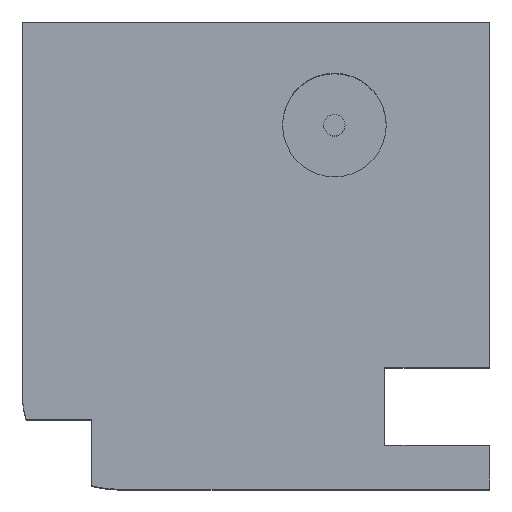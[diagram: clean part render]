
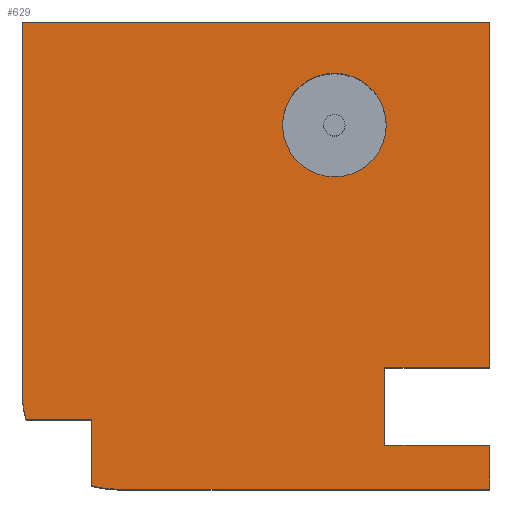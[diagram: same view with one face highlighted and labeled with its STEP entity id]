
A CAD part, top view. The second image highlights one B-rep face of the part: STEP entity #629.
In plain terms, the highlighted planar face has unit normal (0, 0, 1).
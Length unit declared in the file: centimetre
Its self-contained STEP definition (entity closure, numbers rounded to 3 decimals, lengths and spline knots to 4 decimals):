
#74 = AXIS2_PLACEMENT_3D ( 'NONE', #803, #2082, #795 ) ;
#104 = LINE ( 'NONE', #1717, #418 ) ;
#116 = CIRCLE ( 'NONE', #1356, 110.915 ) ;
#120 = VERTEX_POINT ( 'NONE', #250 ) ;
#144 = VECTOR ( 'NONE', #805, 100. ) ;
#169 = LINE ( 'NONE', #1017, #1696 ) ;
#172 = VECTOR ( 'NONE', #569, 100. ) ;
#191 = DIRECTION ( 'NONE',  ( 0., -1., 0. ) ) ;
#226 = FACE_BOUND ( 'NONE', #1618, .T. ) ;
#234 = ORIENTED_EDGE ( 'NONE', *, *, #1684, .T. ) ;
#238 = LINE ( 'NONE', #883, #172 ) ;
#250 = CARTESIAN_POINT ( 'NONE',  ( 775.8467, 261.068, 1000. ) ) ;
#297 = ORIENTED_EDGE ( 'NONE', *, *, #1650, .T. ) ;
#315 = CIRCLE ( 'NONE', #1486, 204.1867 ) ;
#326 = CARTESIAN_POINT ( 'NONE',  ( 775.8467, 93.9171, 1000. ) ) ;
#368 = ORIENTED_EDGE ( 'NONE', *, *, #1991, .T. ) ;
#377 = VERTEX_POINT ( 'NONE', #528 ) ;
#418 = VECTOR ( 'NONE', #740, 100. ) ;
#421 = EDGE_CURVE ( 'NONE', #1087, #1946, #1657, .T. ) ;
#481 = VECTOR ( 'NONE', #191, 100. ) ;
#495 = CARTESIAN_POINT ( 'NONE',  ( 0., 148.4394, 1000. ) ) ;
#499 = EDGE_CURVE ( 'NONE', #120, #1113, #994, .T. ) ;
#524 = VECTOR ( 'NONE', #1801, 100. ) ;
#528 = CARTESIAN_POINT ( 'NONE',  ( 147.9905, 148.4394, 1000. ) ) ;
#536 = CARTESIAN_POINT ( 'NONE',  ( 556.8549, 779.3214, 1000. ) ) ;
#543 = CARTESIAN_POINT ( 'NONE',  ( 1000., 1000., 1000. ) ) ;
#569 = DIRECTION ( 'NONE',  ( -1., 0., 0. ) ) ;
#606 = CARTESIAN_POINT ( 'NONE',  ( 204.1867, 0., 1000. ) ) ;
#629 = ADVANCED_FACE ( 'NONE', ( #226, #871 ), #715, .T. ) ;
#634 = LINE ( 'NONE', #1281, #144 ) ;
#636 = LINE ( 'NONE', #669, #1936 ) ;
#654 = ORIENTED_EDGE ( 'NONE', *, *, #1523, .T. ) ;
#657 = DIRECTION ( 'NONE',  ( 0., 0., 1. ) ) ;
#669 = CARTESIAN_POINT ( 'NONE',  ( 147.9905, 0., 1000. ) ) ;
#715 = PLANE ( 'NONE',  #1729 ) ;
#738 = VERTEX_POINT ( 'NONE', #606 ) ;
#740 = DIRECTION ( 'NONE',  ( 0., 1., 0. ) ) ;
#795 = DIRECTION ( 'NONE',  ( 1., 0., 0. ) ) ;
#803 = CARTESIAN_POINT ( 'NONE',  ( 204.1867, 204.1867, 1000. ) ) ;
#805 = DIRECTION ( 'NONE',  ( 1., 0., 0. ) ) ;
#821 = CARTESIAN_POINT ( 'NONE',  ( 0., 1000., 1000. ) ) ;
#828 = CARTESIAN_POINT ( 'NONE',  ( 0., 1000., 1000. ) ) ;
#837 = DIRECTION ( 'NONE',  ( 0., -1., 0. ) ) ;
#871 = FACE_OUTER_BOUND ( 'NONE', #1206, .T. ) ;
#883 = CARTESIAN_POINT ( 'NONE',  ( 775.8467, 261.068, 1000. ) ) ;
#906 = CARTESIAN_POINT ( 'NONE',  ( 1000., 93.9171, 1000. ) ) ;
#909 = ORIENTED_EDGE ( 'NONE', *, *, #951, .F. ) ;
#919 = VECTOR ( 'NONE', #837, 100. ) ;
#937 = CARTESIAN_POINT ( 'NONE',  ( 667.7699, 779.3214, 1000. ) ) ;
#951 = EDGE_CURVE ( 'NONE', #1796, #120, #238, .T. ) ;
#954 = VERTEX_POINT ( 'NONE', #543 ) ;
#955 = DIRECTION ( 'NONE',  ( 1., 0., 0. ) ) ;
#967 = VERTEX_POINT ( 'NONE', #906 ) ;
#975 = DIRECTION ( 'NONE',  ( 0., -1., 0. ) ) ;
#989 = ORIENTED_EDGE ( 'NONE', *, *, #1492, .F. ) ;
#994 = LINE ( 'NONE', #1635, #481 ) ;
#1017 = CARTESIAN_POINT ( 'NONE',  ( 1000., 1000., 1000. ) ) ;
#1068 = DIRECTION ( 'NONE',  ( 1., 0., 0. ) ) ;
#1087 = VERTEX_POINT ( 'NONE', #821 ) ;
#1091 = VECTOR ( 'NONE', #1367, 100. ) ;
#1092 = EDGE_CURVE ( 'NONE', #1946, #1968, #315, .T. ) ;
#1098 = LINE ( 'NONE', #495, #2012 ) ;
#1105 = ORIENTED_EDGE ( 'NONE', *, *, #1092, .T. ) ;
#1113 = VERTEX_POINT ( 'NONE', #326 ) ;
#1127 = EDGE_CURVE ( 'NONE', #377, #1794, #636, .T. ) ;
#1164 = CARTESIAN_POINT ( 'NONE',  ( 0., 1000., 1000. ) ) ;
#1168 = DIRECTION ( 'NONE',  ( 0., 0., 1. ) ) ;
#1177 = DIRECTION ( 'NONE',  ( 1., 0., 0. ) ) ;
#1178 = EDGE_CURVE ( 'NONE', #1481, #2078, #1872, .T. ) ;
#1206 = EDGE_LOOP ( 'NONE', ( #909, #234, #297, #2092, #1105, #654, #1525, #368, #1786, #2048, #1829, #2086 ) ) ;
#1235 = CARTESIAN_POINT ( 'NONE',  ( 1000., 261.068, 1000. ) ) ;
#1244 = VERTEX_POINT ( 'NONE', #1803 ) ;
#1255 = DIRECTION ( 'NONE',  ( 1., 0., 0. ) ) ;
#1277 = CARTESIAN_POINT ( 'NONE',  ( 0., 204.1867, 1000. ) ) ;
#1281 = CARTESIAN_POINT ( 'NONE',  ( 775.8467, 93.9171, 1000. ) ) ;
#1352 = CARTESIAN_POINT ( 'NONE',  ( 0., 0., 1000. ) ) ;
#1356 = AXIS2_PLACEMENT_3D ( 'NONE', #937, #657, #1255 ) ;
#1357 = CARTESIAN_POINT ( 'NONE',  ( 0., 0., 1000. ) ) ;
#1367 = DIRECTION ( 'NONE',  ( 1., 0., 0. ) ) ;
#1375 = CARTESIAN_POINT ( 'NONE',  ( 147.9905, 7.8854, 1000. ) ) ;
#1376 = LINE ( 'NONE', #1357, #1091 ) ;
#1424 = EDGE_CURVE ( 'NONE', #738, #1244, #1376, .T. ) ;
#1436 = CARTESIAN_POINT ( 'NONE',  ( 204.1867, 204.1867, 1000. ) ) ;
#1451 = EDGE_CURVE ( 'NONE', #1113, #967, #634, .T. ) ;
#1481 = VERTEX_POINT ( 'NONE', #1754 ) ;
#1486 = AXIS2_PLACEMENT_3D ( 'NONE', #1436, #1615, #1068 ) ;
#1492 = EDGE_CURVE ( 'NONE', #2078, #1481, #116, .T. ) ;
#1496 = LINE ( 'NONE', #828, #524 ) ;
#1523 = EDGE_CURVE ( 'NONE', #1968, #377, #1098, .T. ) ;
#1525 = ORIENTED_EDGE ( 'NONE', *, *, #1127, .T. ) ;
#1615 = DIRECTION ( 'NONE',  ( 0., 0., 1. ) ) ;
#1618 = EDGE_LOOP ( 'NONE', ( #1854, #989 ) ) ;
#1635 = CARTESIAN_POINT ( 'NONE',  ( 775.8467, 93.9171, 1000. ) ) ;
#1650 = EDGE_CURVE ( 'NONE', #954, #1087, #1496, .T. ) ;
#1657 = LINE ( 'NONE', #1164, #919 ) ;
#1684 = EDGE_CURVE ( 'NONE', #1796, #954, #169, .T. ) ;
#1696 = VECTOR ( 'NONE', #1961, 100. ) ;
#1717 = CARTESIAN_POINT ( 'NONE',  ( 1000., 1000., 1000. ) ) ;
#1729 = AXIS2_PLACEMENT_3D ( 'NONE', #1352, #2013, #2081 ) ;
#1732 = AXIS2_PLACEMENT_3D ( 'NONE', #1980, #1168, #1177 ) ;
#1754 = CARTESIAN_POINT ( 'NONE',  ( 778.6849, 779.3214, 1000. ) ) ;
#1786 = ORIENTED_EDGE ( 'NONE', *, *, #1424, .T. ) ;
#1794 = VERTEX_POINT ( 'NONE', #1375 ) ;
#1796 = VERTEX_POINT ( 'NONE', #1235 ) ;
#1801 = DIRECTION ( 'NONE',  ( -1., 0., 0. ) ) ;
#1803 = CARTESIAN_POINT ( 'NONE',  ( 1000., 0., 1000. ) ) ;
#1829 = ORIENTED_EDGE ( 'NONE', *, *, #1451, .F. ) ;
#1847 = EDGE_CURVE ( 'NONE', #1244, #967, #104, .T. ) ;
#1854 = ORIENTED_EDGE ( 'NONE', *, *, #1178, .F. ) ;
#1872 = CIRCLE ( 'NONE', #1732, 110.915 ) ;
#1933 = CIRCLE ( 'NONE', #74, 204.1867 ) ;
#1936 = VECTOR ( 'NONE', #975, 100. ) ;
#1946 = VERTEX_POINT ( 'NONE', #1277 ) ;
#1961 = DIRECTION ( 'NONE',  ( 0., 1., 0. ) ) ;
#1968 = VERTEX_POINT ( 'NONE', #2059 ) ;
#1980 = CARTESIAN_POINT ( 'NONE',  ( 667.7699, 779.3214, 1000. ) ) ;
#1991 = EDGE_CURVE ( 'NONE', #1794, #738, #1933, .T. ) ;
#2012 = VECTOR ( 'NONE', #955, 100. ) ;
#2013 = DIRECTION ( 'NONE',  ( 0., 0., 1. ) ) ;
#2048 = ORIENTED_EDGE ( 'NONE', *, *, #1847, .T. ) ;
#2059 = CARTESIAN_POINT ( 'NONE',  ( 7.7575, 148.4394, 1000. ) ) ;
#2078 = VERTEX_POINT ( 'NONE', #536 ) ;
#2081 = DIRECTION ( 'NONE',  ( 1., 0., 0. ) ) ;
#2082 = DIRECTION ( 'NONE',  ( 0., 0., 1. ) ) ;
#2086 = ORIENTED_EDGE ( 'NONE', *, *, #499, .F. ) ;
#2092 = ORIENTED_EDGE ( 'NONE', *, *, #421, .T. ) ;
